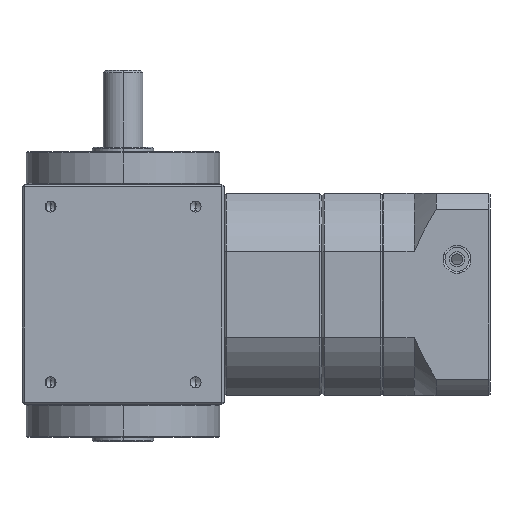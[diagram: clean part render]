
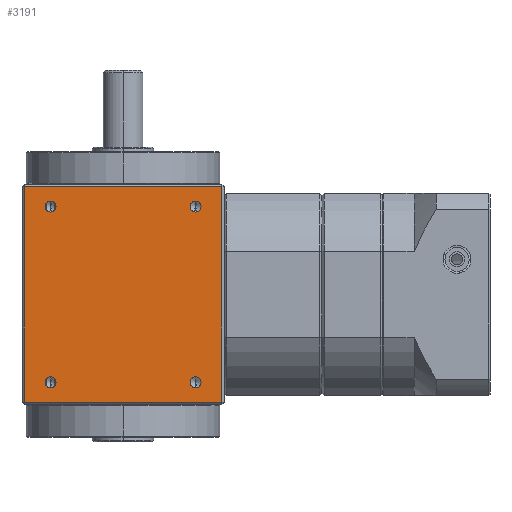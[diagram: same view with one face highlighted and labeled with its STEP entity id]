
A CAD part, left-side view. The second image highlights one B-rep face of the part: STEP entity #3191.
In plain terms, the highlighted planar face has unit normal (-1, 0, 0).
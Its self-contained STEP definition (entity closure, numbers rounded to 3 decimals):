
#176 = VERTEX_POINT ( 'NONE', #744 ) ;
#178 = VERTEX_POINT ( 'NONE', #755 ) ;
#191 = VERTEX_POINT ( 'NONE', #750 ) ;
#194 = VERTEX_POINT ( 'NONE', #759 ) ;
#513 = VERTEX_POINT ( 'NONE', #4023 ) ;
#514 = VERTEX_POINT ( 'NONE', #4024 ) ;
#534 = VERTEX_POINT ( 'NONE', #4044 ) ;
#535 = VERTEX_POINT ( 'NONE', #4045 ) ;
#598 = VERTEX_POINT ( 'NONE', #4107 ) ;
#599 = VERTEX_POINT ( 'NONE', #4108 ) ;
#603 = VERTEX_POINT ( 'NONE', #4112 ) ;
#604 = VERTEX_POINT ( 'NONE', #4113 ) ;
#653 = ORIENTED_EDGE ( 'NONE', *, *, #1018, .F. ) ;
#654 = ORIENTED_EDGE ( 'NONE', *, *, #2748, .F. ) ;
#655 = ORIENTED_EDGE ( 'NONE', *, *, #1019, .F. ) ;
#656 = ORIENTED_EDGE ( 'NONE', *, *, #891, .F. ) ;
#657 = ORIENTED_EDGE ( 'NONE', *, *, #1020, .F. ) ;
#658 = ORIENTED_EDGE ( 'NONE', *, *, #912, .F. ) ;
#659 = ORIENTED_EDGE ( 'NONE', *, *, #1021, .F. ) ;
#660 = ORIENTED_EDGE ( 'NONE', *, *, #918, .F. ) ;
#661 = ORIENTED_EDGE ( 'NONE', *, *, #1022, .T. ) ;
#662 = ORIENTED_EDGE ( 'NONE', *, *, #1023, .T. ) ;
#663 = ORIENTED_EDGE ( 'NONE', *, *, #1024, .T. ) ;
#664 = ORIENTED_EDGE ( 'NONE', *, *, #1025, .T. ) ;
#744 = CARTESIAN_POINT ( 'NONE',  ( -46., 33., 42.5 ) ) ;
#750 = CARTESIAN_POINT ( 'NONE',  ( -46., 33., -37.5 ) ) ;
#755 = CARTESIAN_POINT ( 'NONE',  ( -46., 33., 37.5 ) ) ;
#759 = CARTESIAN_POINT ( 'NONE',  ( -46., 33., -42.5 ) ) ;
#891 = EDGE_CURVE ( 'NONE', #178, #176, #4921, .T. ) ;
#912 = EDGE_CURVE ( 'NONE', #604, #603, #4945, .T. ) ;
#918 = EDGE_CURVE ( 'NONE', #599, #598, #4955, .T. ) ;
#1018 = EDGE_CURVE ( 'NONE', #191, #194, #5089, .T. ) ;
#1019 = EDGE_CURVE ( 'NONE', #176, #178, #5087, .T. ) ;
#1020 = EDGE_CURVE ( 'NONE', #603, #604, #5092, .T. ) ;
#1021 = EDGE_CURVE ( 'NONE', #598, #599, #5093, .T. ) ;
#1022 = EDGE_CURVE ( 'NONE', #534, #535, #5094, .T. ) ;
#1023 = EDGE_CURVE ( 'NONE', #535, #513, #5091, .T. ) ;
#1024 = EDGE_CURVE ( 'NONE', #513, #514, #5097, .T. ) ;
#1025 = EDGE_CURVE ( 'NONE', #514, #534, #5099, .T. ) ;
#2748 = EDGE_CURVE ( 'NONE', #194, #191, #7703, .T. ) ;
#2895 = AXIS2_PLACEMENT_3D ( 'NONE', #4565, #4566, #4567 ) ;
#2903 = AXIS2_PLACEMENT_3D ( 'NONE', #4653, #4654, #4655 ) ;
#2905 = AXIS2_PLACEMENT_3D ( 'NONE', #4667, #4668, #4669 ) ;
#2936 = AXIS2_PLACEMENT_3D ( 'NONE', #5599, #5600, #5601 ) ;
#2937 = AXIS2_PLACEMENT_3D ( 'NONE', #5602, #5603, #5604 ) ;
#2938 = AXIS2_PLACEMENT_3D ( 'NONE', #5607, #5608, #5609 ) ;
#2939 = AXIS2_PLACEMENT_3D ( 'NONE', #5612, #5613, #5614 ) ;
#3191 = ADVANCED_FACE ( 'NONE', ( #9785, #9792, #9788, #9791, #9794 ), #9543, .F. ) ;
#3282 = EDGE_LOOP ( 'NONE', ( #655, #656 ) ) ;
#3303 = EDGE_LOOP ( 'NONE', ( #659, #660 ) ) ;
#3365 = EDGE_LOOP ( 'NONE', ( #657, #658 ) ) ;
#3366 = EDGE_LOOP ( 'NONE', ( #653, #654 ) ) ;
#3462 = EDGE_LOOP ( 'NONE', ( #661, #662, #663, #664 ) ) ;
#4023 = CARTESIAN_POINT ( 'NONE',  ( -46., 45., 49. ) ) ;
#4024 = CARTESIAN_POINT ( 'NONE',  ( -46., 45., -49. ) ) ;
#4044 = CARTESIAN_POINT ( 'NONE',  ( -46., -45., -49. ) ) ;
#4045 = CARTESIAN_POINT ( 'NONE',  ( -46., -45., 49. ) ) ;
#4107 = CARTESIAN_POINT ( 'NONE',  ( -46., -33., -37.5 ) ) ;
#4108 = CARTESIAN_POINT ( 'NONE',  ( -46., -33., -42.5 ) ) ;
#4112 = CARTESIAN_POINT ( 'NONE',  ( -46., -33., 42.5 ) ) ;
#4113 = CARTESIAN_POINT ( 'NONE',  ( -46., -33., 37.5 ) ) ;
#4565 = CARTESIAN_POINT ( 'NONE',  ( -46., 33., 40. ) ) ;
#4566 = DIRECTION ( 'NONE',  ( -1., 0., 0. ) ) ;
#4567 = DIRECTION ( 'NONE',  ( 0., 0., 1. ) ) ;
#4653 = CARTESIAN_POINT ( 'NONE',  ( -46., -33., 40. ) ) ;
#4654 = DIRECTION ( 'NONE',  ( -1., 0., 0. ) ) ;
#4655 = DIRECTION ( 'NONE',  ( 0., 0., 1. ) ) ;
#4667 = CARTESIAN_POINT ( 'NONE',  ( -46., -33., -40. ) ) ;
#4668 = DIRECTION ( 'NONE',  ( -1., 0., 0. ) ) ;
#4669 = DIRECTION ( 'NONE',  ( 0., 0., 1. ) ) ;
#4921 = CIRCLE ( 'NONE', #2895, 2.5 ) ;
#4945 = CIRCLE ( 'NONE', #2903, 2.5 ) ;
#4955 = CIRCLE ( 'NONE', #2905, 2.5 ) ;
#5087 = CIRCLE ( 'NONE', #2937, 2.5 ) ;
#5089 = CIRCLE ( 'NONE', #2936, 2.5 ) ;
#5091 = LINE ( 'NONE', #5611, #5098 ) ;
#5092 = CIRCLE ( 'NONE', #2938, 2.5 ) ;
#5093 = CIRCLE ( 'NONE', #2939, 2.5 ) ;
#5094 = LINE ( 'NONE', #5605, #5096 ) ;
#5096 = VECTOR ( 'NONE', #5606, 1000. ) ;
#5097 = LINE ( 'NONE', #5616, #5100 ) ;
#5098 = VECTOR ( 'NONE', #5615, 1000. ) ;
#5099 = LINE ( 'NONE', #5618, #5102 ) ;
#5100 = VECTOR ( 'NONE', #5617, 1000. ) ;
#5102 = VECTOR ( 'NONE', #5619, 1000. ) ;
#5599 = CARTESIAN_POINT ( 'NONE',  ( -46., 33., -40. ) ) ;
#5600 = DIRECTION ( 'NONE',  ( -1., 0., 0. ) ) ;
#5601 = DIRECTION ( 'NONE',  ( 0., 0., 1. ) ) ;
#5602 = CARTESIAN_POINT ( 'NONE',  ( -46., 33., 40. ) ) ;
#5603 = DIRECTION ( 'NONE',  ( -1., 0., 0. ) ) ;
#5604 = DIRECTION ( 'NONE',  ( 0., 0., 1. ) ) ;
#5605 = CARTESIAN_POINT ( 'NONE',  ( -46., -45., 50. ) ) ;
#5606 = DIRECTION ( 'NONE',  ( 0., 0., 1. ) ) ;
#5607 = CARTESIAN_POINT ( 'NONE',  ( -46., -33., 40. ) ) ;
#5608 = DIRECTION ( 'NONE',  ( -1., 0., 0. ) ) ;
#5609 = DIRECTION ( 'NONE',  ( 0., 0., 1. ) ) ;
#5611 = CARTESIAN_POINT ( 'NONE',  ( -46., 46., 49. ) ) ;
#5612 = CARTESIAN_POINT ( 'NONE',  ( -46., -33., -40. ) ) ;
#5613 = DIRECTION ( 'NONE',  ( -1., 0., 0. ) ) ;
#5614 = DIRECTION ( 'NONE',  ( 0., 0., 1. ) ) ;
#5615 = DIRECTION ( 'NONE',  ( 0., 1., 0. ) ) ;
#5616 = CARTESIAN_POINT ( 'NONE',  ( -46., 45., 50. ) ) ;
#5617 = DIRECTION ( 'NONE',  ( 0., 0., -1. ) ) ;
#5618 = CARTESIAN_POINT ( 'NONE',  ( -46., -46., -49. ) ) ;
#5619 = DIRECTION ( 'NONE',  ( 0., -1., 0. ) ) ;
#6064 = AXIS2_PLACEMENT_3D ( 'NONE', #8760, #8761, #8762 ) ;
#6296 = AXIS2_PLACEMENT_3D ( 'NONE', #9545, #9541, #9546 ) ;
#7703 = CIRCLE ( 'NONE', #6064, 2.5 ) ;
#8760 = CARTESIAN_POINT ( 'NONE',  ( -46., 33., -40. ) ) ;
#8761 = DIRECTION ( 'NONE',  ( -1., 0., 0. ) ) ;
#8762 = DIRECTION ( 'NONE',  ( 0., 0., 1. ) ) ;
#9541 = DIRECTION ( 'NONE',  ( 1., 0., 0. ) ) ;
#9543 = PLANE ( 'NONE',  #6296 ) ;
#9545 = CARTESIAN_POINT ( 'NONE',  ( -46., -46., 50. ) ) ;
#9546 = DIRECTION ( 'NONE',  ( 0., 0., -1. ) ) ;
#9785 = FACE_BOUND ( 'NONE', #3366, .T. ) ;
#9788 = FACE_BOUND ( 'NONE', #3365, .T. ) ;
#9791 = FACE_BOUND ( 'NONE', #3303, .T. ) ;
#9792 = FACE_BOUND ( 'NONE', #3282, .T. ) ;
#9794 = FACE_OUTER_BOUND ( 'NONE', #3462, .T. ) ;
